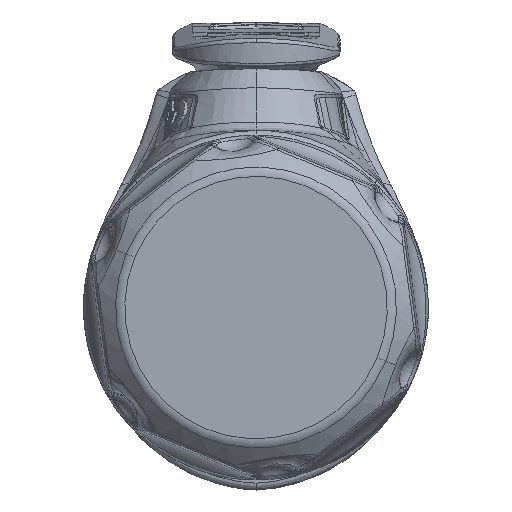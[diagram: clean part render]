
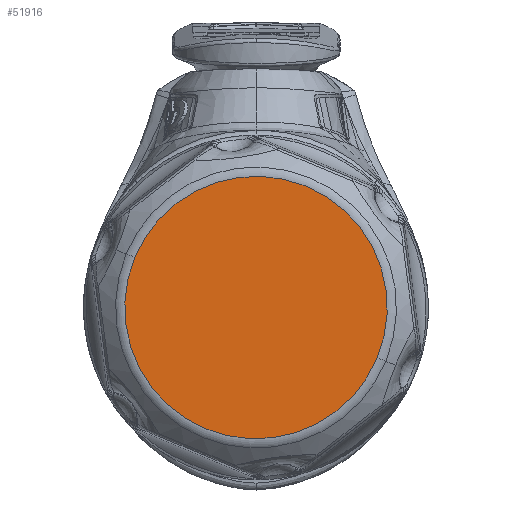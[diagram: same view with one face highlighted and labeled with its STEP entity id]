
A CAD part, front view. The second image highlights one B-rep face of the part: STEP entity #51916.
In plain terms, the highlighted planar face has unit normal (0, -1, 0).
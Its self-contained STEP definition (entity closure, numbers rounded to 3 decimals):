
#2822 = CARTESIAN_POINT ( 'NONE',  ( 8.795, -43.745, -3.696 ) ) ;
#6380 = DIRECTION ( 'NONE',  ( 0., 0., -1. ) ) ;
#22020 = DIRECTION ( 'NONE',  ( -0.924, 0., 0.382 ) ) ;
#29000 = DIRECTION ( 'NONE',  ( 0., -1., 0. ) ) ;
#34394 = CARTESIAN_POINT ( 'NONE',  ( 0., -43.745, -0.061 ) ) ;
#36782 = CARTESIAN_POINT ( 'NONE',  ( 0., -43.745, -0.061 ) ) ;
#50634 = CARTESIAN_POINT ( 'NONE',  ( -8.795, -43.745, 3.574 ) ) ;
#51916 = ADVANCED_FACE ( 'NONE', ( #62256 ), #54942, .T. ) ;
#52676 = EDGE_LOOP ( 'NONE', ( #84791, #62451 ) ) ;
#54902 = AXIS2_PLACEMENT_3D ( 'NONE', #36782, #29000, #70237 ) ;
#54942 = PLANE ( 'NONE',  #74748 ) ;
#56817 = DIRECTION ( 'NONE',  ( 0., -1., 0. ) ) ;
#58131 = CIRCLE ( 'NONE', #69841, 9.516 ) ;
#62256 = FACE_OUTER_BOUND ( 'NONE', #52676, .T. ) ;
#62320 = VERTEX_POINT ( 'NONE', #50634 ) ;
#62451 = ORIENTED_EDGE ( 'NONE', *, *, #71163, .T. ) ;
#69841 = AXIS2_PLACEMENT_3D ( 'NONE', #34394, #56817, #22020 ) ;
#70237 = DIRECTION ( 'NONE',  ( -0.924, 0., 0.382 ) ) ;
#71163 = EDGE_CURVE ( 'NONE', #82663, #62320, #82683, .T. ) ;
#74662 = DIRECTION ( 'NONE',  ( 0., -1., 0. ) ) ;
#74748 = AXIS2_PLACEMENT_3D ( 'NONE', #89296, #74662, #6380 ) ;
#79837 = EDGE_CURVE ( 'NONE', #62320, #82663, #58131, .T. ) ;
#82663 = VERTEX_POINT ( 'NONE', #2822 ) ;
#82683 = CIRCLE ( 'NONE', #54902, 9.516 ) ;
#84791 = ORIENTED_EDGE ( 'NONE', *, *, #79837, .T. ) ;
#89296 = CARTESIAN_POINT ( 'NONE',  ( 0., -43.745, 9.455 ) ) ;
